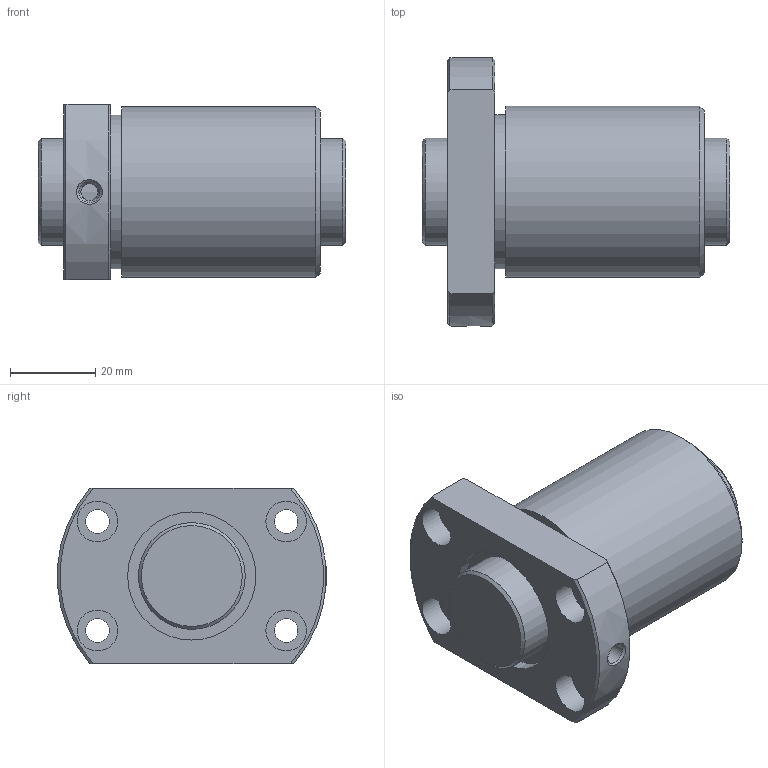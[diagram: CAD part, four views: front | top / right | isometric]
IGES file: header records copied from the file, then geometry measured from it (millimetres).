
Start section: Data from Parasolid IGES Translator 26.0.171, Copyright(c) 2006 Siemens PLM Software. All Rights Reserved.
Global section: file name: DIK2506-4RRG0+72LC0_000.igs; native system: By Siemens PLM Incorporated; preprocessor: XPlus GENERIC/IGES 26.0.171; author: Noname; organization: Noname; date: 20250113.094853; units: millimetre
Bounding box: 72 x 62.9 x 41 mm (x, y, z)
Surface area: 24735.3 mm2 (no closed solid volume)
Topology: 0 solids, 0 shells, 41 faces, 166 edges, 132 vertices
Faces by surface type: revolution 27, extrusion 14
